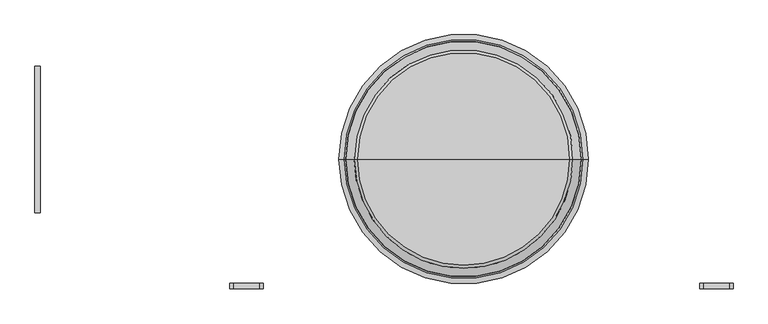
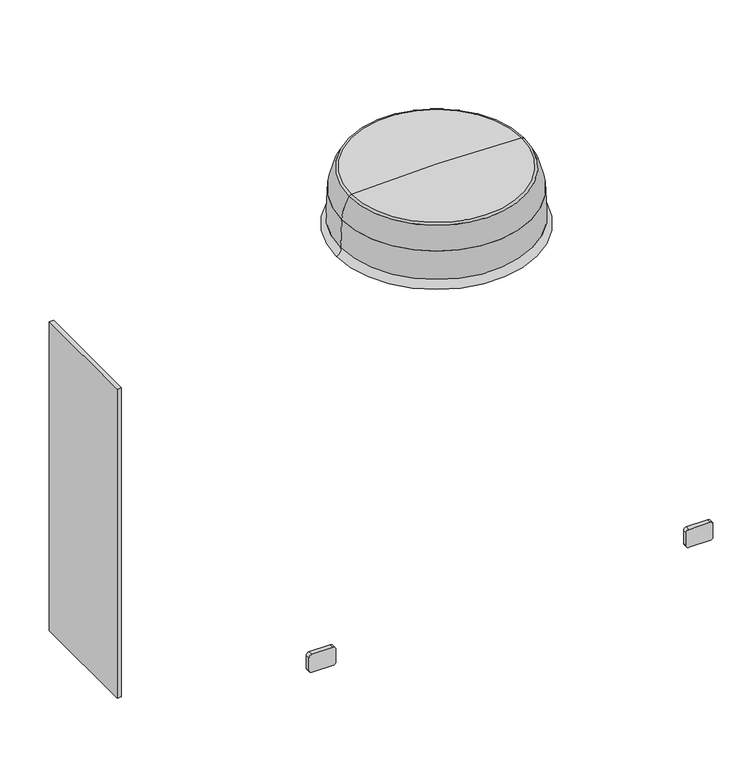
"""IFC4 building model written with IfcOpenShell, lengths in millimetres: proxy geometry, PURY-P168-288_YSJMU_Heat_Recovery_460V : PURY-P192YSJMU-A(-BS)_460V."""

from ifc_helpers import new_model, si_unit, point, frame, frame_2d, origin, place, context, project, spatial, polyline, circle_curve, ellipse_curve, trimmed, segment, composite_curve, outline, extrude, source, transform, mapped, element, save
from ifc_brep_helpers import plane_surface, revolved_surface, advanced_brep


def mechanical_equipment_79fc2163(model_context):
    return source(origin(), model_context, "Body", "SolidModel", [
        extrude(outline(polyline([(-748.962, -164.0), (-748.962, 284.0), (-732.962, 284.0), (-732.962, -164.0), (-748.962, -164.0)])), frame((0.0, 0.0, 54.0), z_axis=(0.0, 0.0, 1.0), x_axis=(1.0, 0.0, 0.0)), (0.0, 0.0, 1.0), 1245.8),
        advanced_brep(
        [(202.9156536, 0.0, 1550.0000157), (924.1603464, 0.0, 1550.0000157), (563.538, 0.0, 1550.0000157), (228.7569245, 0.0, 1635.7196156), (898.3190755, 0.0, 1635.7196156), (237.9260831, 0.0, 1640.2981249), (889.1499169, 0.0, 1640.2981249), (563.538, 0.0, 1649.7941679)],
        [
            (0, 1, circle_curve(frame((563.538, 0.0, 1550.0000157), z_axis=(0.0, 0.0, -1.0), x_axis=(1.0, 0.0, 0.0)), 360.6223464)),
            (1, 2),
            (2, 0),
            (1, 0, circle_curve(frame((563.538, 0.0, 1550.0000157), z_axis=(0.0, 0.0, -1.0), x_axis=(1.0, 0.0, 0.0)), 360.6223464)),
            (3, 4, circle_curve(frame((563.538, 0.0, 1635.7196156), z_axis=(0.0, 0.0, -1.0), x_axis=(1.0, 0.0, 0.0)), 334.7810755)),
            (4, 1, circle_curve(frame((740.2568175, 0.0, 1541.3148332), z_axis=(0.0, 1.0, 0.0), x_axis=(1.0, 0.0, 0.0)), 184.1085015)),
            (0, 3, circle_curve(frame((386.8191825, 0.0, 1541.3148332), z_axis=(0.0, 1.0, 0.0), x_axis=(-1.0, 0.0, 0.0)), 184.1085015)),
            (4, 3, circle_curve(frame((563.538, 0.0, 1635.7196156), z_axis=(0.0, 0.0, -1.0), x_axis=(1.0, 0.0, 0.0)), 334.7810755)),
            (5, 6, circle_curve(frame((563.538, 0.0, 1640.2981249), z_axis=(0.0, 0.0, -1.0), x_axis=(1.0, 0.0, 0.0)), 325.6119169)),
            (6, 4, circle_curve(frame((889.1499169, 0.0, 1628.8275558), z_axis=(0.0, 1.0, 0.0), x_axis=(1.0, 0.0, 0.0)), 11.4705691)),
            (3, 5, circle_curve(frame((237.9260831, 0.0, 1628.8275558), z_axis=(0.0, 1.0, 0.0), x_axis=(-1.0, 0.0, 0.0)), 11.4705691)),
            (6, 5, circle_curve(frame((563.538, 0.0, 1640.2981249), z_axis=(0.0, 0.0, -1.0), x_axis=(1.0, 0.0, 0.0)), 325.6119169)),
            (7, 6, circle_curve(frame((563.538, 0.0, -3937.4433334), z_axis=(0.0, 1.0, 0.0), x_axis=(1.0, 0.0, 0.0)), 5587.2375013)),
            (5, 7, circle_curve(frame((563.538, 0.0, -3937.4433334), z_axis=(0.0, 1.0, 0.0), x_axis=(-1.0, 0.0, 0.0)), 5587.2375013)),
        ],
        [
            plane_surface(frame((563.538, 0.0, 1550.0000157), z_axis=(0.0, 0.0, -1.0), x_axis=(1.0, 0.0, 0.0))),
            revolved_surface(trimmed(ellipse_curve(frame((740.2568175, 0.0, 1541.3148332), z_axis=(0.0, -1.0, 0.0), x_axis=(1.0, 0.0, 0.0)), 184.1085015, 184.1085015), [point((924.1603464, 0.0, 1550.0000157))], [point((898.3190755, 0.0, 1635.7196156))], True, "CARTESIAN"), (563.538, 0.0, 1605.0), (0.0, 0.0, 1.0)),
            revolved_surface(trimmed(ellipse_curve(frame((889.1499169, 0.0, 1628.8275558), z_axis=(0.0, -1.0, 0.0), x_axis=(1.0, 0.0, 0.0)), 11.4705691, 11.4705691), [point((898.3190755, 0.0, 1635.7196156))], [point((889.1499169, 0.0, 1640.2981249))], True, "CARTESIAN"), (563.538, 0.0, 1605.0), (0.0, 0.0, 1.0)),
            revolved_surface(trimmed(ellipse_curve(frame((563.538, 0.0, -3937.4433334), z_axis=(0.0, -1.0, 0.0), x_axis=(1.0, 0.0, 0.0)), 5587.2375013, 5587.2375013), [point((889.1499169, 0.0, 1640.2981249))], [point((563.538, 0.0, 1649.7941679))], True, "CARTESIAN"), (563.538, 0.0, 1605.0), (0.0, 0.0, 1.0)),
        ],
        [
            (0, [[1, 2, 3]]),
            (0, [[4, -3, -2]]),
            (1, [[5, 6, -1, 7]]),
            (1, [[8, -7, -4, -6]]),
            (2, [[9, 10, -5, 11]]),
            (2, [[12, -11, -8, -10]]),
            (3, [[13, -9, 14]]),
            (3, [[-14, -12, -13]]),
        ],
    ),
        advanced_brep(
        [(181.4881528, 0.0, 1410.0), (945.5878472, 0.0, 1410.0), (563.538, 0.0, 1410.0), (198.0531583, 0.0, 1438.6914312), (929.0228417, 0.0, 1438.6914312), (202.9129453, 0.0, 1550.0000157), (924.1630547, 0.0, 1550.0000157), (563.538, 0.0, 1550.0000157)],
        [
            (0, 1, circle_curve(frame((563.538, 0.0, 1410.0), z_axis=(0.0, 0.0, -1.0), x_axis=(1.0, 0.0, 0.0)), 382.0498472)),
            (1, 2),
            (2, 0),
            (1, 0, circle_curve(frame((563.538, 0.0, 1410.0), z_axis=(0.0, 0.0, -1.0), x_axis=(1.0, 0.0, 0.0)), 382.0498472)),
            (3, 4, circle_curve(frame((563.538, 0.0, 1438.6914312), z_axis=(0.0, 0.0, -1.0), x_axis=(1.0, 0.0, 0.0)), 365.4848417)),
            (4, 1, circle_curve(frame((949.7748091, 0.0, 1431.5449644), z_axis=(0.0, -1.0, 0.0), x_axis=(1.0, 0.0, 0.0)), 21.9480327)),
            (0, 3, circle_curve(frame((177.3011909, 0.0, 1431.5449644), z_axis=(0.0, -1.0, 0.0), x_axis=(-1.0, 0.0, 0.0)), 21.9480327)),
            (4, 3, circle_curve(frame((563.538, 0.0, 1438.6914312), z_axis=(0.0, 0.0, -1.0), x_axis=(1.0, 0.0, 0.0)), 365.4848417)),
            (5, 6, circle_curve(frame((563.538, 0.0, 1550.0000157), z_axis=(0.0, 0.0, -1.0), x_axis=(1.0, 0.0, 0.0)), 360.6250547)),
            (6, 4),
            (3, 5),
            (6, 5, circle_curve(frame((563.538, 0.0, 1550.0000157), z_axis=(0.0, 0.0, -1.0), x_axis=(1.0, 0.0, 0.0)), 360.6250547)),
            (7, 6),
            (5, 7),
        ],
        [
            plane_surface(frame((563.538, 0.0, 1410.0), z_axis=(0.0, 0.0, -1.0), x_axis=(1.0, 0.0, 0.0))),
            revolved_surface(trimmed(ellipse_curve(frame((949.7748091, 0.0, 1431.5449644), z_axis=(0.0, 1.0, 0.0), x_axis=(1.0, 0.0, 0.0)), 21.9480327, 21.9480327), [point((945.5878472, 0.0, 1410.0))], [point((929.0228417, 0.0, 1438.6914312))], True, "CARTESIAN"), (563.538, 0.0, 1470.0), (0.0, 0.0, 1.0)),
            revolved_surface(polyline([(929.0228417, 0.0, 1438.6914312), (924.1630547, 0.0, 1550.0000157)]), (563.538, 0.0, 1470.0), (0.0, 0.0, 1.0)),
            plane_surface(frame((563.538, 0.0, 1550.0000157), z_axis=(0.0, 0.0, 1.0), x_axis=(1.0, 0.0, 0.0))),
        ],
        [
            (0, [[1, 2, 3]]),
            (0, [[4, -3, -2]]),
            (1, [[5, 6, -1, 7]]),
            (1, [[8, -7, -4, -6]]),
            (2, [[9, 10, -5, 11]]),
            (2, [[12, -11, -8, -10]]),
            (3, [[13, -9, 14]]),
            (3, [[-14, -12, -13]]),
        ],
    ),
        extrude(outline(composite_curve([segment(trimmed(circle_curve(frame_2d((148.5853631, 1296.6117511)), 9.9920268), [point((158.5773899, 1296.6117511))], [point((148.5853631, 1286.6197243))], False, "CARTESIAN"), True, "CONTINUOUS"), segment(polyline([(148.5853631, 1286.6197243), (96.5694168, 1286.6197243)]), True, "CONTINUOUS"), segment(trimmed(circle_curve(frame_2d((96.5694168, 1296.6117511)), 9.9920268), [point((96.5694168, 1286.6197243))], [point((86.5773899, 1296.6117511))], False, "CARTESIAN"), True, "CONTINUOUS"), segment(polyline([(86.5773899, 1296.6117511), (86.5773899, 1378.6276974)]), True, "CONTINUOUS"), segment(trimmed(circle_curve(frame_2d((96.5694168, 1378.6276974)), 9.9920268), [point((86.5773899, 1378.6276974))], [point((96.5694168, 1388.6197243))], False, "CARTESIAN"), True, "CONTINUOUS"), segment(polyline([(96.5694168, 1388.6197243), (148.5853631, 1388.6197243)]), True, "CONTINUOUS"), segment(trimmed(circle_curve(frame_2d((148.5853631, 1378.6276974)), 9.9920268), [point((148.5853631, 1388.6197243))], [point((158.5773899, 1378.6276974))], False, "CARTESIAN"), True, "CONTINUOUS"), segment(polyline([(158.5773899, 1378.6276974), (158.5773899, 1296.6117511)]), True, "CONTINUOUS")], self_intersect=False)), frame((0.0, -397.2710787, 0.0), z_axis=(0.0, 1.0, 0.0), x_axis=(0.0, 0.0, 1.0)), (0.0, 0.0, 1.0), 17.2710787),
        extrude(outline(composite_curve([segment(trimmed(circle_curve(frame_2d((148.5853631, -142.3882489)), 9.9920268), [point((158.5773899, -142.3882489))], [point((148.5853631, -152.3802757))], False, "CARTESIAN"), True, "CONTINUOUS"), segment(polyline([(148.5853631, -152.3802757), (96.5694168, -152.3802757)]), True, "CONTINUOUS"), segment(trimmed(circle_curve(frame_2d((96.5694168, -142.3882489)), 9.9920268), [point((96.5694168, -152.3802757))], [point((86.5773899, -142.3882489))], False, "CARTESIAN"), True, "CONTINUOUS"), segment(polyline([(86.5773899, -142.3882489), (86.5773899, -60.3723026)]), True, "CONTINUOUS"), segment(trimmed(circle_curve(frame_2d((96.5694168, -60.3723026)), 9.9920268), [point((86.5773899, -60.3723026))], [point((96.5694168, -50.3802757))], False, "CARTESIAN"), True, "CONTINUOUS"), segment(polyline([(96.5694168, -50.3802757), (148.5853631, -50.3802757)]), True, "CONTINUOUS"), segment(trimmed(circle_curve(frame_2d((148.5853631, -60.3723026)), 9.9920268), [point((148.5853631, -50.3802757))], [point((158.5773899, -60.3723026))], False, "CARTESIAN"), True, "CONTINUOUS"), segment(polyline([(158.5773899, -60.3723026), (158.5773899, -142.3882489)]), True, "CONTINUOUS")], self_intersect=False)), frame((0.0, -397.2710787, 0.0), z_axis=(0.0, 1.0, 0.0), x_axis=(0.0, 0.0, 1.0)), (0.0, 0.0, 1.0), 17.2710787),
    ])


if __name__ == "__main__":
    model = new_model("IFC4")
    model_context = context("Model", 3, world=origin())
    ifc_project = project(units=[si_unit("LENGTHUNIT", "METRE", prefix="MILLI")], contexts=[model_context])
    site = spatial("IfcSite", under=ifc_project)
    building = spatial("IfcBuilding", under=site)
    placement = place(None, origin())
    mechanical_equipment_shape = mechanical_equipment_79fc2163(model_context)
    element("IfcBuildingElementProxy", 1, Name="PURY-P168-288_YSJMU_Heat_Recovery_460V : PURY-P192YSJMU-A(-BS)_460V", ObjectType="PURY-P168-288_YSJMU_Heat_Recovery_460V : PURY-P192YSJMU-A(-BS)_460V", at=placement, inside=building, context=model_context, shape_type="MappedRepresentation", body=[
        mapped(mechanical_equipment_shape, transform((0.0, 0.0, 0.0), x_axis=(1.0, 0.0, 0.0), y_axis=(0.0, 1.0, 0.0), z_axis=(0.0, 0.0, 1.0))),
    ])
    save(model, "model.ifc")
